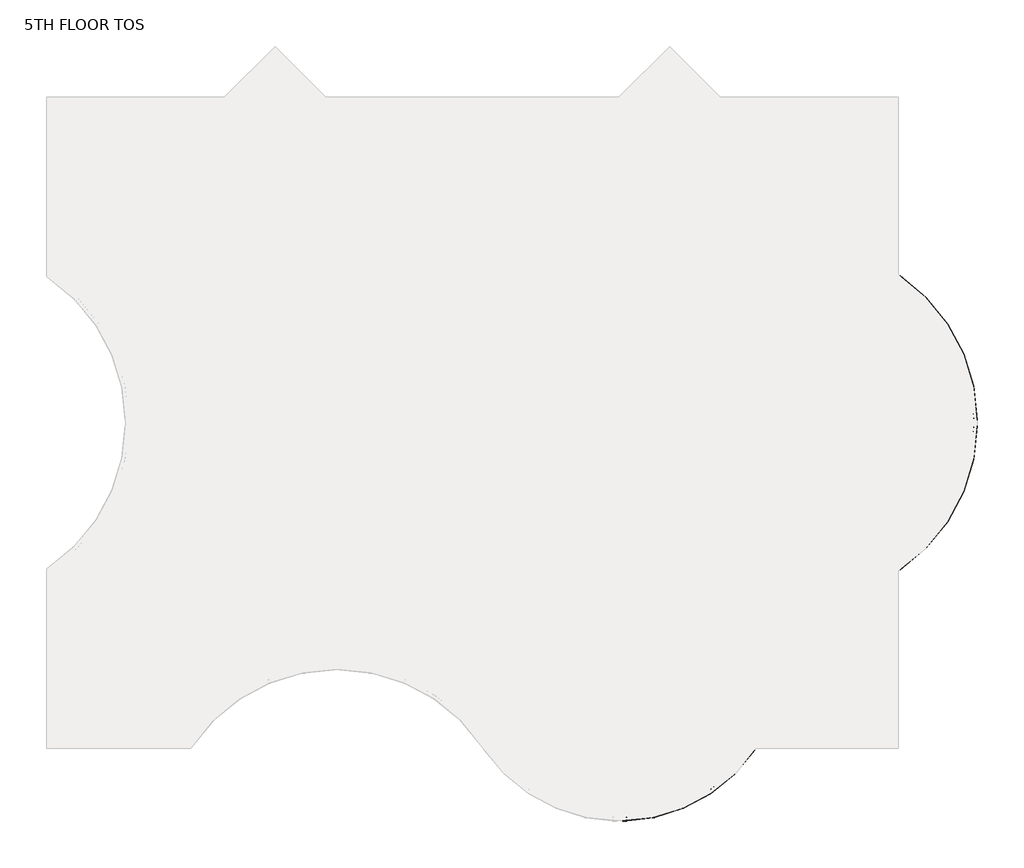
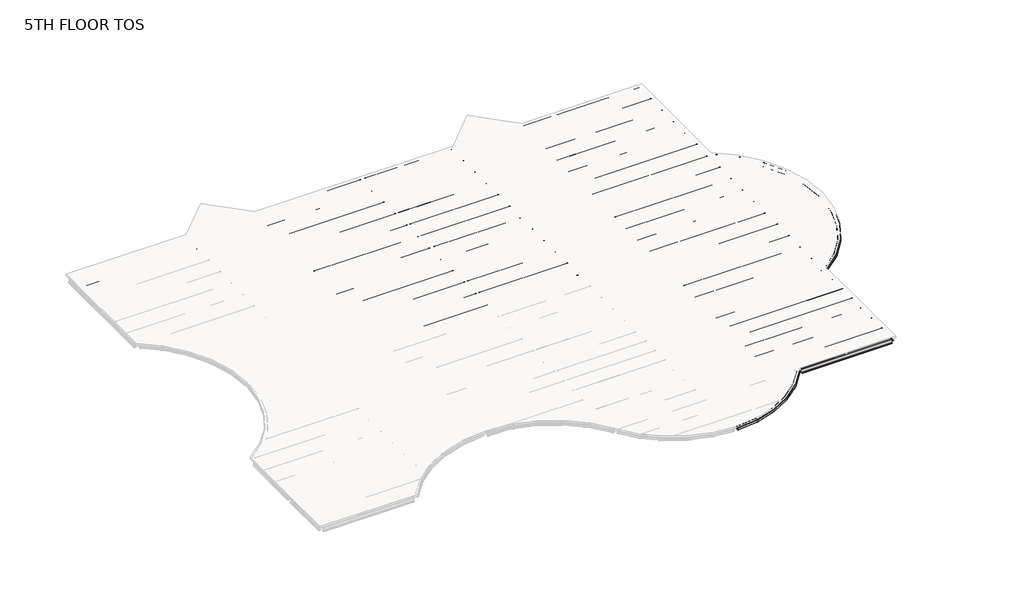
# One storey, part 2 of 2: 110 beams.
"""IFC4 building model written with IfcOpenShell, lengths in millimetres."""

from ifc_helpers import new_model, si_unit, origin, place, context, project, spatial, transform, mapped, element, save
from components import m_hss_square_hss203_2x203_2x9_5_28e91a4e, m_hss_square_hss203_2x203_2x9_5_f31329aa, m_hss_square_hss203_2x203_2x9_5_63507dff, ub_universal_beams_ub254x102x28_7812688d, ub_universal_beams_ub254x102x28_4a38c177, ub_universal_beams_ub305x165x40_c4d0385b, ub_universal_beams_ub305x165x40_19965e16, ub_universal_beams_ub305x165x40_d3abc31d, ub_universal_beams_ub305x165x40_0c73730f, ub_universal_beams_ub305x165x40_2a963f0c, ub_universal_beams_ub305x165x40_9ce7f2ee, ub_universal_beams_ub305x165x40_d184adfd, ub_universal_beams_ub305x165x40_bc7dc938, ub_universal_beams_ub305x165x40_b4233d25, ub_universal_beams_ub356x171x51_c708c058, ub_universal_beams_ub356x171x51_ef72dcdd, ub_universal_beams_ub356x171x51_10b3c54f, ub_universal_beams_ub356x171x51_4c9fd821, ub_universal_beams_ub356x171x51_d1a87c3c, ub_universal_beams_ub356x171x51_fa75724b, ub_universal_beams_ub356x171x51_68db896e, ub_universal_beams_ub356x171x51_c634c4a6, ub_universal_beams_ub356x171x51_995f1560, ub_universal_beams_ub356x171x51_dfc36663, ub_universal_beams_ub356x171x51_11d6b780, ub_universal_beams_ub356x171x51_76b2d20b, ub_universal_beams_ub356x171x51_145ecd4b, ub_universal_beams_ub356x171x51_c7dff8d2, ub_universal_beams_ub356x171x51_8a345439, ub_universal_beams_ub356x171x51_6da510e9, ub_universal_beams_ub356x171x51_e97f8d2e, ub_universal_beams_ub356x171x51_a38b99de, ub_universal_beams_ub356x171x51_d8f4cdde, ub_universal_beams_ub356x171x51_475301e6, ub_universal_beams_ub356x171x51_c03c70fb, ub_universal_beams_ub356x171x51_741bae58

model = new_model("IFC4")

# Units and contexts
model_context = context("Model", 3, world=origin())
ifc_project = project(units=[si_unit("LENGTHUNIT", "METRE", prefix="MILLI")], contexts=[model_context])

# Site, building, storey
site = spatial("IfcSite", under=ifc_project)
building = spatial("IfcBuilding", under=site)
storey = spatial("IfcBuildingStorey", under=building, Name="5TH FLOOR TOS", Elevation=22707.6)

# Beams
placement = place(None, origin())
m_hss_square_hss203_2x203_2x9_5_shape = m_hss_square_hss203_2x203_2x9_5_28e91a4e(model_context)
element("IfcBeam", 1, ObjectType="M_HSS Square : HSS203.2X203.2X9.5", at=placement, inside=storey, context=model_context, shape_type="MappedRepresentation", body=[
    mapped(m_hss_square_hss203_2x203_2x9_5_shape, transform((44027.575, 24539.575, 22606.1), x_axis=(0.8332810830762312, -0.5528495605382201, 0.0), y_axis=(0.5528495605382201, 0.8332810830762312, 0.0), z_axis=(0.0, 0.0, 1.0))),
])
m_hss_square_hss203_2x203_2x9_5_2_shape = m_hss_square_hss203_2x203_2x9_5_f31329aa(model_context)
element("IfcBeam", 2, ObjectType="M_HSS Square : HSS203.2X203.2X9.5", at=placement, inside=storey, context=model_context, shape_type="MappedRepresentation", body=[
    mapped(m_hss_square_hss203_2x203_2x9_5_2_shape, transform((44027.575, 9299.575, 22606.1), x_axis=(0.8332810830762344, 0.5528495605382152, 0.0), y_axis=(-0.5528495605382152, 0.8332810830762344, 0.0), z_axis=(0.0, 0.0, 1.0))),
])
m_hss_square_hss203_2x203_2x9_5_3_shape = m_hss_square_hss203_2x203_2x9_5_63507dff(model_context)
element("IfcBeam", 3, ObjectType="M_HSS Square : HSS203.2X203.2X9.5", at=placement, inside=storey, context=model_context, shape_type="MappedRepresentation", body=[
    mapped(m_hss_square_hss203_2x203_2x9_5_3_shape, transform((36716.575, 155.575, 22606.1), x_axis=(-0.5530174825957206, -0.8331696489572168, 0.0), y_axis=(0.8331696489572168, -0.5530174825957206, 0.0), z_axis=(0.0, 0.0, 1.0))),
])
ub_universal_beams_ub254x102x28_shape = ub_universal_beams_ub254x102x28_7812688d(model_context)
element("IfcBeam", 4, ObjectType="UB-Universal Beams : UB254x102x28", at=placement, inside=storey, context=model_context, shape_type="MappedRepresentation", body=[
    mapped(ub_universal_beams_ub254x102x28_shape, transform((10592.575, 34976.575, 22577.4), x_axis=(0.7071067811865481, 0.7071067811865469, 0.0), y_axis=(-0.7071067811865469, 0.7071067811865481, 0.0), z_axis=(0.0, 0.0, 1.0))),
])
element("IfcBeam", 5, ObjectType="UB-Universal Beams : UB254x102x28", at=placement, inside=storey, context=model_context, shape_type="MappedRepresentation", body=[
    mapped(ub_universal_beams_ub254x102x28_shape, transform((31004.575, 34976.575, 22577.4), x_axis=(0.7071067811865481, 0.7071067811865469, 0.0), y_axis=(-0.7071067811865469, 0.7071067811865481, 0.0), z_axis=(0.0, 0.0, 1.0))),
])
ub_universal_beams_ub254x102x28_2_shape = ub_universal_beams_ub254x102x28_4a38c177(model_context)
element("IfcBeam", 6, ObjectType="UB-Universal Beams : UB254x102x28", at=placement, inside=storey, context=model_context, shape_type="MappedRepresentation", body=[
    mapped(ub_universal_beams_ub254x102x28_2_shape, transform((13178.575, 34976.575, 22577.4), x_axis=(0.707106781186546, -0.707106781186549, 0.0), y_axis=(0.707106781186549, 0.707106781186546, 0.0), z_axis=(0.0, 0.0, 1.0))),
])
element("IfcBeam", 7, ObjectType="UB-Universal Beams : UB254x102x28", at=placement, inside=storey, context=model_context, shape_type="MappedRepresentation", body=[
    mapped(ub_universal_beams_ub254x102x28_2_shape, transform((33590.575, 34976.575, 22577.4), x_axis=(0.7071067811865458, -0.7071067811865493, 0.0), y_axis=(0.7071067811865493, 0.7071067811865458, 0.0), z_axis=(0.0, 0.0, 1.0))),
])
ub_universal_beams_ub305x165x40_shape = ub_universal_beams_ub305x165x40_c4d0385b(model_context)
element("IfcBeam", 8, ObjectType="UB-Universal Beams : UB305x165x40", at=placement, inside=storey, context=model_context, shape_type="MappedRepresentation", body=[
    mapped(ub_universal_beams_ub305x165x40_shape, transform((4727.575, 32159.575, 22555.9), x_axis=(1.0, 0.0, 0.0), y_axis=(0.0, 1.0, 0.0), z_axis=(0.0, 0.0, 1.0))),
])
element("IfcBeam", 9, ObjectType="UB-Universal Beams : UB305x165x40", at=placement, inside=storey, context=model_context, shape_type="MappedRepresentation", body=[
    mapped(ub_universal_beams_ub305x165x40_shape, transform((39455.575, 32159.575, 22555.9), x_axis=(1.0, 0.0, 0.0), y_axis=(0.0, 1.0, 0.0), z_axis=(0.0, 0.0, 1.0))),
])
element("IfcBeam", 10, ObjectType="UB-Universal Beams : UB305x165x40", at=placement, inside=storey, context=model_context, shape_type="MappedRepresentation", body=[
    mapped(ub_universal_beams_ub305x165x40_shape, transform((39455.575, 30635.575, 22555.9), x_axis=(1.0, 0.0, 0.0), y_axis=(0.0, 1.0, 0.0), z_axis=(0.0, 0.0, 1.0))),
])
element("IfcBeam", 11, ObjectType="UB-Universal Beams : UB305x165x40", at=placement, inside=storey, context=model_context, shape_type="MappedRepresentation", body=[
    mapped(ub_universal_beams_ub305x165x40_shape, transform((39455.575, 29111.575, 22555.9), x_axis=(1.0, 0.0, 0.0), y_axis=(0.0, 1.0, 0.0), z_axis=(0.0, 0.0, 1.0))),
])
element("IfcBeam", 12, ObjectType="UB-Universal Beams : UB305x165x40", at=placement, inside=storey, context=model_context, shape_type="MappedRepresentation", body=[
    mapped(ub_universal_beams_ub305x165x40_shape, transform((39455.575, 27587.575, 22555.9), x_axis=(1.0, 0.0, 0.0), y_axis=(0.0, 1.0, 0.0), z_axis=(0.0, 0.0, 1.0))),
])
element("IfcBeam", 13, ObjectType="UB-Universal Beams : UB305x165x40", at=placement, inside=storey, context=model_context, shape_type="MappedRepresentation", body=[
    mapped(ub_universal_beams_ub305x165x40_shape, transform((39455.575, 26063.575, 22555.9), x_axis=(1.0, 0.0, 0.0), y_axis=(0.0, 1.0, 0.0), z_axis=(0.0, 0.0, 1.0))),
])
element("IfcBeam", 14, ObjectType="UB-Universal Beams : UB305x165x40", at=placement, inside=storey, context=model_context, shape_type="MappedRepresentation", body=[
    mapped(ub_universal_beams_ub305x165x40_shape, transform((39455.575, 23015.575, 22555.9), x_axis=(1.0, 0.0, 0.0), y_axis=(0.0, 1.0, 0.0), z_axis=(0.0, 0.0, 1.0))),
])
element("IfcBeam", 15, ObjectType="UB-Universal Beams : UB305x165x40", at=placement, inside=storey, context=model_context, shape_type="MappedRepresentation", body=[
    mapped(ub_universal_beams_ub305x165x40_shape, transform((39455.575, 21491.575, 22555.9), x_axis=(1.0, 0.0, 0.0), y_axis=(0.0, 1.0, 0.0), z_axis=(0.0, 0.0, 1.0))),
])
element("IfcBeam", 16, ObjectType="UB-Universal Beams : UB305x165x40", at=placement, inside=storey, context=model_context, shape_type="MappedRepresentation", body=[
    mapped(ub_universal_beams_ub305x165x40_shape, transform((39455.575, 19967.575, 22555.9), x_axis=(1.0, 0.0, 0.0), y_axis=(0.0, 1.0, 0.0), z_axis=(0.0, 0.0, 1.0))),
])
element("IfcBeam", 17, ObjectType="UB-Universal Beams : UB305x165x40", at=placement, inside=storey, context=model_context, shape_type="MappedRepresentation", body=[
    mapped(ub_universal_beams_ub305x165x40_shape, transform((39455.575, 18443.575, 22555.9), x_axis=(1.0, 0.0, 0.0), y_axis=(0.0, 1.0, 0.0), z_axis=(0.0, 0.0, 1.0))),
])
element("IfcBeam", 18, ObjectType="UB-Universal Beams : UB305x165x40", at=placement, inside=storey, context=model_context, shape_type="MappedRepresentation", body=[
    mapped(ub_universal_beams_ub305x165x40_shape, transform((39455.575, 15395.575, 22555.9), x_axis=(1.0, 0.0, 0.0), y_axis=(0.0, 1.0, 0.0), z_axis=(0.0, 0.0, 1.0))),
])
element("IfcBeam", 19, ObjectType="UB-Universal Beams : UB305x165x40", at=placement, inside=storey, context=model_context, shape_type="MappedRepresentation", body=[
    mapped(ub_universal_beams_ub305x165x40_shape, transform((39455.575, 13871.575, 22555.9), x_axis=(1.0, 0.0, 0.0), y_axis=(0.0, 1.0, 0.0), z_axis=(0.0, 0.0, 1.0))),
])
element("IfcBeam", 20, ObjectType="UB-Universal Beams : UB305x165x40", at=placement, inside=storey, context=model_context, shape_type="MappedRepresentation", body=[
    mapped(ub_universal_beams_ub305x165x40_shape, transform((39455.575, 12347.575, 22555.9), x_axis=(1.0, 0.0, 0.0), y_axis=(0.0, 1.0, 0.0), z_axis=(0.0, 0.0, 1.0))),
])
element("IfcBeam", 21, ObjectType="UB-Universal Beams : UB305x165x40", at=placement, inside=storey, context=model_context, shape_type="MappedRepresentation", body=[
    mapped(ub_universal_beams_ub305x165x40_shape, transform((39455.575, 10823.575, 22555.9), x_axis=(1.0, 0.0, 0.0), y_axis=(0.0, 1.0, 0.0), z_axis=(0.0, 0.0, 1.0))),
])
element("IfcBeam", 22, ObjectType="UB-Universal Beams : UB305x165x40", at=placement, inside=storey, context=model_context, shape_type="MappedRepresentation", body=[
    mapped(ub_universal_beams_ub305x165x40_shape, transform((39455.575, 5508.325, 22555.9), x_axis=(-1.0, 0.0, 0.0), y_axis=(0.0, -1.0, 0.0), z_axis=(0.0, 0.0, 1.0))),
])
element("IfcBeam", 23, ObjectType="UB-Universal Beams : UB305x165x40", at=placement, inside=storey, context=model_context, shape_type="MappedRepresentation", body=[
    mapped(ub_universal_beams_ub305x165x40_shape, transform((39455.575, 6772.075, 22555.9), x_axis=(-1.0, 0.0, 0.0), y_axis=(0.0, -1.0, 0.0), z_axis=(0.0, 0.0, 1.0))),
])
element("IfcBeam", 24, ObjectType="UB-Universal Beams : UB305x165x40", at=placement, inside=storey, context=model_context, shape_type="MappedRepresentation", body=[
    mapped(ub_universal_beams_ub305x165x40_shape, transform((39455.575, 8035.825, 22555.9), x_axis=(-1.0, 0.0, 0.0), y_axis=(0.0, -1.0, 0.0), z_axis=(0.0, 0.0, 1.0))),
])
element("IfcBeam", 25, ObjectType="UB-Universal Beams : UB305x165x40", at=placement, inside=storey, context=model_context, shape_type="MappedRepresentation", body=[
    mapped(ub_universal_beams_ub305x165x40_shape, transform((39455.575, 1518.575, 22555.9), x_axis=(-1.0, 0.0, 0.0), y_axis=(0.0, -1.0, 0.0), z_axis=(0.0, 0.0, 1.0))),
])
element("IfcBeam", 26, ObjectType="UB-Universal Beams : UB305x165x40", at=placement, inside=storey, context=model_context, shape_type="MappedRepresentation", body=[
    mapped(ub_universal_beams_ub305x165x40_shape, transform((39455.575, 2881.575, 22555.9), x_axis=(-1.0, 0.0, 0.0), y_axis=(0.0, -1.0, 0.0), z_axis=(0.0, 0.0, 1.0))),
])
ub_universal_beams_ub305x165x40_2_shape = ub_universal_beams_ub305x165x40_19965e16(model_context)
element("IfcBeam", 27, ObjectType="UB-Universal Beams : UB305x165x40", at=placement, inside=storey, context=model_context, shape_type="MappedRepresentation", body=[
    mapped(ub_universal_beams_ub305x165x40_2_shape, transform((11885.575, 34803.325, 22555.9), x_axis=(1.0, 0.0, 0.0), y_axis=(0.0, 1.0, 0.0), z_axis=(0.0, 0.0, 1.0))),
])
element("IfcBeam", 28, ObjectType="UB-Universal Beams : UB305x165x40", at=placement, inside=storey, context=model_context, shape_type="MappedRepresentation", body=[
    mapped(ub_universal_beams_ub305x165x40_2_shape, transform((32297.575, 34803.325, 22555.9), x_axis=(1.0, 0.0, 0.0), y_axis=(0.0, 1.0, 0.0), z_axis=(0.0, 0.0, 1.0))),
])
ub_universal_beams_ub305x165x40_3_shape = ub_universal_beams_ub305x165x40_d3abc31d(model_context)
element("IfcBeam", 29, ObjectType="UB-Universal Beams : UB305x165x40", at=placement, inside=storey, context=model_context, shape_type="MappedRepresentation", body=[
    mapped(ub_universal_beams_ub305x165x40_3_shape, transform((11885.575, 33337.075, 22555.9), x_axis=(1.0, 0.0, 0.0), y_axis=(0.0, 1.0, 0.0), z_axis=(0.0, 0.0, 1.0))),
])
element("IfcBeam", 30, ObjectType="UB-Universal Beams : UB305x165x40", at=placement, inside=storey, context=model_context, shape_type="MappedRepresentation", body=[
    mapped(ub_universal_beams_ub305x165x40_3_shape, transform((11885.575, 31870.825, 22555.9), x_axis=(1.0, 0.0, 0.0), y_axis=(0.0, 1.0, 0.0), z_axis=(0.0, 0.0, 1.0))),
])
element("IfcBeam", 31, ObjectType="UB-Universal Beams : UB305x165x40", at=placement, inside=storey, context=model_context, shape_type="MappedRepresentation", body=[
    mapped(ub_universal_beams_ub305x165x40_3_shape, transform((11885.575, 30404.575, 22555.9), x_axis=(1.0, 0.0, 0.0), y_axis=(0.0, 1.0, 0.0), z_axis=(0.0, 0.0, 1.0))),
])
element("IfcBeam", 32, ObjectType="UB-Universal Beams : UB305x165x40", at=placement, inside=storey, context=model_context, shape_type="MappedRepresentation", body=[
    mapped(ub_universal_beams_ub305x165x40_3_shape, transform((32297.575, 33337.075, 22555.9), x_axis=(1.0, 0.0, 0.0), y_axis=(0.0, 1.0, 0.0), z_axis=(0.0, 0.0, 1.0))),
])
element("IfcBeam", 33, ObjectType="UB-Universal Beams : UB305x165x40", at=placement, inside=storey, context=model_context, shape_type="MappedRepresentation", body=[
    mapped(ub_universal_beams_ub305x165x40_3_shape, transform((32297.575, 31870.825, 22555.9), x_axis=(1.0, 0.0, 0.0), y_axis=(0.0, 1.0, 0.0), z_axis=(0.0, 0.0, 1.0))),
])
element("IfcBeam", 34, ObjectType="UB-Universal Beams : UB305x165x40", at=placement, inside=storey, context=model_context, shape_type="MappedRepresentation", body=[
    mapped(ub_universal_beams_ub305x165x40_3_shape, transform((32297.575, 30404.575, 22555.9), x_axis=(1.0, 0.0, 0.0), y_axis=(0.0, 1.0, 0.0), z_axis=(0.0, 0.0, 1.0))),
])
element("IfcBeam", 35, ObjectType="UB-Universal Beams : UB305x165x40", at=placement, inside=storey, context=model_context, shape_type="MappedRepresentation", body=[
    mapped(ub_universal_beams_ub305x165x40_3_shape, transform((32297.575, 28938.325, 22555.9), x_axis=(1.0, 0.0, 0.0), y_axis=(0.0, 1.0, 0.0), z_axis=(0.0, 0.0, 1.0))),
])
element("IfcBeam", 36, ObjectType="UB-Universal Beams : UB305x165x40", at=placement, inside=storey, context=model_context, shape_type="MappedRepresentation", body=[
    mapped(ub_universal_beams_ub305x165x40_3_shape, transform((32297.575, 27472.075, 22555.9), x_axis=(1.0, 0.0, 0.0), y_axis=(0.0, 1.0, 0.0), z_axis=(0.0, 0.0, 1.0))),
])
element("IfcBeam", 37, ObjectType="UB-Universal Beams : UB305x165x40", at=placement, inside=storey, context=model_context, shape_type="MappedRepresentation", body=[
    mapped(ub_universal_beams_ub305x165x40_3_shape, transform((32297.575, 26005.825, 22555.9), x_axis=(1.0, 0.0, 0.0), y_axis=(0.0, 1.0, 0.0), z_axis=(0.0, 0.0, 1.0))),
])
element("IfcBeam", 38, ObjectType="UB-Universal Beams : UB305x165x40", at=placement, inside=storey, context=model_context, shape_type="MappedRepresentation", body=[
    mapped(ub_universal_beams_ub305x165x40_3_shape, transform((32297.575, 1518.575, 22555.9), x_axis=(-1.0, 0.0, 0.0), y_axis=(0.0, -1.0, 0.0), z_axis=(0.0, 0.0, 1.0))),
])
element("IfcBeam", 39, ObjectType="UB-Universal Beams : UB305x165x40", at=placement, inside=storey, context=model_context, shape_type="MappedRepresentation", body=[
    mapped(ub_universal_beams_ub305x165x40_3_shape, transform((32297.575, 2881.575, 22555.9), x_axis=(-1.0, 0.0, 0.0), y_axis=(0.0, -1.0, 0.0), z_axis=(0.0, 0.0, 1.0))),
])
element("IfcBeam", 40, ObjectType="UB-Universal Beams : UB305x165x40", at=placement, inside=storey, context=model_context, shape_type="MappedRepresentation", body=[
    mapped(ub_universal_beams_ub305x165x40_3_shape, transform((32297.575, 5508.325, 22555.9), x_axis=(-1.0, 0.0, 0.0), y_axis=(0.0, -1.0, 0.0), z_axis=(0.0, 0.0, 1.0))),
])
element("IfcBeam", 41, ObjectType="UB-Universal Beams : UB305x165x40", at=placement, inside=storey, context=model_context, shape_type="MappedRepresentation", body=[
    mapped(ub_universal_beams_ub305x165x40_3_shape, transform((32297.575, 6772.075, 22555.9), x_axis=(-1.0, 0.0, 0.0), y_axis=(0.0, -1.0, 0.0), z_axis=(0.0, 0.0, 1.0))),
])
element("IfcBeam", 42, ObjectType="UB-Universal Beams : UB305x165x40", at=placement, inside=storey, context=model_context, shape_type="MappedRepresentation", body=[
    mapped(ub_universal_beams_ub305x165x40_3_shape, transform((32297.575, 8035.825, 22555.9), x_axis=(-1.0, 0.0, 0.0), y_axis=(0.0, -1.0, 0.0), z_axis=(0.0, 0.0, 1.0))),
])
element("IfcBeam", 43, ObjectType="UB-Universal Beams : UB305x165x40", at=placement, inside=storey, context=model_context, shape_type="MappedRepresentation", body=[
    mapped(ub_universal_beams_ub305x165x40_3_shape, transform((32297.575, 15395.575, 22555.9), x_axis=(1.0, 0.0, 0.0), y_axis=(0.0, 1.0, 0.0), z_axis=(0.0, 0.0, 1.0))),
])
element("IfcBeam", 44, ObjectType="UB-Universal Beams : UB305x165x40", at=placement, inside=storey, context=model_context, shape_type="MappedRepresentation", body=[
    mapped(ub_universal_beams_ub305x165x40_3_shape, transform((32297.575, 13871.575, 22555.9), x_axis=(1.0, 0.0, 0.0), y_axis=(0.0, 1.0, 0.0), z_axis=(0.0, 0.0, 1.0))),
])
element("IfcBeam", 45, ObjectType="UB-Universal Beams : UB305x165x40", at=placement, inside=storey, context=model_context, shape_type="MappedRepresentation", body=[
    mapped(ub_universal_beams_ub305x165x40_3_shape, transform((32297.575, 12347.575, 22555.9), x_axis=(1.0, 0.0, 0.0), y_axis=(0.0, 1.0, 0.0), z_axis=(0.0, 0.0, 1.0))),
])
element("IfcBeam", 46, ObjectType="UB-Universal Beams : UB305x165x40", at=placement, inside=storey, context=model_context, shape_type="MappedRepresentation", body=[
    mapped(ub_universal_beams_ub305x165x40_3_shape, transform((32297.575, 10823.575, 22555.9), x_axis=(1.0, 0.0, 0.0), y_axis=(0.0, 1.0, 0.0), z_axis=(0.0, 0.0, 1.0))),
])
element("IfcBeam", 47, ObjectType="UB-Universal Beams : UB305x165x40", at=placement, inside=storey, context=model_context, shape_type="MappedRepresentation", body=[
    mapped(ub_universal_beams_ub305x165x40_3_shape, transform((32297.575, 23015.575, 22555.9), x_axis=(1.0, 0.0, 0.0), y_axis=(0.0, 1.0, 0.0), z_axis=(0.0, 0.0, 1.0))),
])
element("IfcBeam", 48, ObjectType="UB-Universal Beams : UB305x165x40", at=placement, inside=storey, context=model_context, shape_type="MappedRepresentation", body=[
    mapped(ub_universal_beams_ub305x165x40_3_shape, transform((32297.575, 21491.575, 22555.9), x_axis=(1.0, 0.0, 0.0), y_axis=(0.0, 1.0, 0.0), z_axis=(0.0, 0.0, 1.0))),
])
element("IfcBeam", 49, ObjectType="UB-Universal Beams : UB305x165x40", at=placement, inside=storey, context=model_context, shape_type="MappedRepresentation", body=[
    mapped(ub_universal_beams_ub305x165x40_3_shape, transform((32297.575, 19967.575, 22555.9), x_axis=(1.0, 0.0, 0.0), y_axis=(0.0, 1.0, 0.0), z_axis=(0.0, 0.0, 1.0))),
])
element("IfcBeam", 50, ObjectType="UB-Universal Beams : UB305x165x40", at=placement, inside=storey, context=model_context, shape_type="MappedRepresentation", body=[
    mapped(ub_universal_beams_ub305x165x40_3_shape, transform((32297.575, 18443.575, 22555.9), x_axis=(1.0, 0.0, 0.0), y_axis=(0.0, 1.0, 0.0), z_axis=(0.0, 0.0, 1.0))),
])
ub_universal_beams_ub305x165x40_4_shape = ub_universal_beams_ub305x165x40_0c73730f(model_context)
element("IfcBeam", 51, ObjectType="UB-Universal Beams : UB305x165x40", at=placement, inside=storey, context=model_context, shape_type="MappedRepresentation", body=[
    mapped(ub_universal_beams_ub305x165x40_4_shape, transform((18591.075, 32159.575, 22555.9), x_axis=(1.0, 0.0, 0.0), y_axis=(0.0, 1.0, 0.0), z_axis=(0.0, 0.0, 1.0))),
])
element("IfcBeam", 52, ObjectType="UB-Universal Beams : UB305x165x40", at=placement, inside=storey, context=model_context, shape_type="MappedRepresentation", body=[
    mapped(ub_universal_beams_ub305x165x40_4_shape, transform((18591.075, 30635.575, 22555.9), x_axis=(1.0, 0.0, 0.0), y_axis=(0.0, 1.0, 0.0), z_axis=(0.0, 0.0, 1.0))),
])
element("IfcBeam", 53, ObjectType="UB-Universal Beams : UB305x165x40", at=placement, inside=storey, context=model_context, shape_type="MappedRepresentation", body=[
    mapped(ub_universal_beams_ub305x165x40_4_shape, transform((18591.075, 29111.575, 22555.9), x_axis=(1.0, 0.0, 0.0), y_axis=(0.0, 1.0, 0.0), z_axis=(0.0, 0.0, 1.0))),
])
element("IfcBeam", 54, ObjectType="UB-Universal Beams : UB305x165x40", at=placement, inside=storey, context=model_context, shape_type="MappedRepresentation", body=[
    mapped(ub_universal_beams_ub305x165x40_4_shape, transform((18591.075, 27587.575, 22555.9), x_axis=(1.0, 0.0, 0.0), y_axis=(0.0, 1.0, 0.0), z_axis=(0.0, 0.0, 1.0))),
])
element("IfcBeam", 55, ObjectType="UB-Universal Beams : UB305x165x40", at=placement, inside=storey, context=model_context, shape_type="MappedRepresentation", body=[
    mapped(ub_universal_beams_ub305x165x40_4_shape, transform((18591.075, 26063.575, 22555.9), x_axis=(1.0, 0.0, 0.0), y_axis=(0.0, 1.0, 0.0), z_axis=(0.0, 0.0, 1.0))),
])
element("IfcBeam", 56, ObjectType="UB-Universal Beams : UB305x165x40", at=placement, inside=storey, context=model_context, shape_type="MappedRepresentation", body=[
    mapped(ub_universal_beams_ub305x165x40_4_shape, transform((18591.075, 23015.575, 22555.9), x_axis=(1.0, 0.0, 0.0), y_axis=(0.0, 1.0, 0.0), z_axis=(0.0, 0.0, 1.0))),
])
element("IfcBeam", 57, ObjectType="UB-Universal Beams : UB305x165x40", at=placement, inside=storey, context=model_context, shape_type="MappedRepresentation", body=[
    mapped(ub_universal_beams_ub305x165x40_4_shape, transform((18591.075, 21491.575, 22555.9), x_axis=(1.0, 0.0, 0.0), y_axis=(0.0, 1.0, 0.0), z_axis=(0.0, 0.0, 1.0))),
])
element("IfcBeam", 58, ObjectType="UB-Universal Beams : UB305x165x40", at=placement, inside=storey, context=model_context, shape_type="MappedRepresentation", body=[
    mapped(ub_universal_beams_ub305x165x40_4_shape, transform((18591.075, 19967.575, 22555.9), x_axis=(1.0, 0.0, 0.0), y_axis=(0.0, 1.0, 0.0), z_axis=(0.0, 0.0, 1.0))),
])
element("IfcBeam", 59, ObjectType="UB-Universal Beams : UB305x165x40", at=placement, inside=storey, context=model_context, shape_type="MappedRepresentation", body=[
    mapped(ub_universal_beams_ub305x165x40_4_shape, transform((18591.075, 18443.575, 22555.9), x_axis=(1.0, 0.0, 0.0), y_axis=(0.0, 1.0, 0.0), z_axis=(0.0, 0.0, 1.0))),
])
ub_universal_beams_ub305x165x40_5_shape = ub_universal_beams_ub305x165x40_2a963f0c(model_context)
element("IfcBeam", 60, ObjectType="UB-Universal Beams : UB305x165x40", at=placement, inside=storey, context=model_context, shape_type="MappedRepresentation", body=[
    mapped(ub_universal_beams_ub305x165x40_5_shape, transform((26211.075, 32159.575, 22555.9), x_axis=(1.0, 0.0, 0.0), y_axis=(0.0, 1.0, 0.0), z_axis=(0.0, 0.0, 1.0))),
])
element("IfcBeam", 61, ObjectType="UB-Universal Beams : UB305x165x40", at=placement, inside=storey, context=model_context, shape_type="MappedRepresentation", body=[
    mapped(ub_universal_beams_ub305x165x40_5_shape, transform((26211.075, 30635.575, 22555.9), x_axis=(1.0, 0.0, 0.0), y_axis=(0.0, 1.0, 0.0), z_axis=(0.0, 0.0, 1.0))),
])
element("IfcBeam", 62, ObjectType="UB-Universal Beams : UB305x165x40", at=placement, inside=storey, context=model_context, shape_type="MappedRepresentation", body=[
    mapped(ub_universal_beams_ub305x165x40_5_shape, transform((26211.075, 29111.575, 22555.9), x_axis=(1.0, 0.0, 0.0), y_axis=(0.0, 1.0, 0.0), z_axis=(0.0, 0.0, 1.0))),
])
element("IfcBeam", 63, ObjectType="UB-Universal Beams : UB305x165x40", at=placement, inside=storey, context=model_context, shape_type="MappedRepresentation", body=[
    mapped(ub_universal_beams_ub305x165x40_5_shape, transform((26211.075, 27587.575, 22555.9), x_axis=(1.0, 0.0, 0.0), y_axis=(0.0, 1.0, 0.0), z_axis=(0.0, 0.0, 1.0))),
])
element("IfcBeam", 64, ObjectType="UB-Universal Beams : UB305x165x40", at=placement, inside=storey, context=model_context, shape_type="MappedRepresentation", body=[
    mapped(ub_universal_beams_ub305x165x40_5_shape, transform((26211.075, 26063.575, 22555.9), x_axis=(1.0, 0.0, 0.0), y_axis=(0.0, 1.0, 0.0), z_axis=(0.0, 0.0, 1.0))),
])
element("IfcBeam", 65, ObjectType="UB-Universal Beams : UB305x165x40", at=placement, inside=storey, context=model_context, shape_type="MappedRepresentation", body=[
    mapped(ub_universal_beams_ub305x165x40_5_shape, transform((26211.075, 23015.575, 22555.9), x_axis=(1.0, 0.0, 0.0), y_axis=(0.0, 1.0, 0.0), z_axis=(0.0, 0.0, 1.0))),
])
element("IfcBeam", 66, ObjectType="UB-Universal Beams : UB305x165x40", at=placement, inside=storey, context=model_context, shape_type="MappedRepresentation", body=[
    mapped(ub_universal_beams_ub305x165x40_5_shape, transform((26211.075, 21491.575, 22555.9), x_axis=(1.0, 0.0, 0.0), y_axis=(0.0, 1.0, 0.0), z_axis=(0.0, 0.0, 1.0))),
])
element("IfcBeam", 67, ObjectType="UB-Universal Beams : UB305x165x40", at=placement, inside=storey, context=model_context, shape_type="MappedRepresentation", body=[
    mapped(ub_universal_beams_ub305x165x40_5_shape, transform((26211.075, 19967.575, 22555.9), x_axis=(1.0, 0.0, 0.0), y_axis=(0.0, 1.0, 0.0), z_axis=(0.0, 0.0, 1.0))),
])
element("IfcBeam", 68, ObjectType="UB-Universal Beams : UB305x165x40", at=placement, inside=storey, context=model_context, shape_type="MappedRepresentation", body=[
    mapped(ub_universal_beams_ub305x165x40_5_shape, transform((26211.075, 18443.575, 22555.9), x_axis=(1.0, 0.0, 0.0), y_axis=(0.0, 1.0, 0.0), z_axis=(0.0, 0.0, 1.0))),
])
ub_universal_beams_ub305x165x40_6_shape = ub_universal_beams_ub305x165x40_9ce7f2ee(model_context)
element("IfcBeam", 69, ObjectType="UB-Universal Beams : UB305x165x40", at=placement, inside=storey, context=model_context, shape_type="MappedRepresentation", body=[
    mapped(ub_universal_beams_ub305x165x40_6_shape, transform((44907.9405309, 23015.575, 22555.9), x_axis=(1.0, 0.0, 0.0), y_axis=(0.0, 1.0, 0.0), z_axis=(0.0, 0.0, 1.0))),
])
element("IfcBeam", 70, ObjectType="UB-Universal Beams : UB305x165x40", at=placement, inside=storey, context=model_context, shape_type="MappedRepresentation", body=[
    mapped(ub_universal_beams_ub305x165x40_6_shape, transform((44907.9405309, 10823.575, 22555.9), x_axis=(1.0, 0.0, 0.0), y_axis=(0.0, 1.0, 0.0), z_axis=(0.0, 0.0, 1.0))),
])
ub_universal_beams_ub305x165x40_7_shape = ub_universal_beams_ub305x165x40_d184adfd(model_context)
element("IfcBeam", 71, ObjectType="UB-Universal Beams : UB305x165x40", at=placement, inside=storey, context=model_context, shape_type="MappedRepresentation", body=[
    mapped(ub_universal_beams_ub305x165x40_7_shape, transform((45459.5874928, 21491.575, 22555.9), x_axis=(1.0, 0.0, 0.0), y_axis=(0.0, 1.0, 0.0), z_axis=(0.0, 0.0, 1.0))),
])
element("IfcBeam", 72, ObjectType="UB-Universal Beams : UB305x165x40", at=placement, inside=storey, context=model_context, shape_type="MappedRepresentation", body=[
    mapped(ub_universal_beams_ub305x165x40_7_shape, transform((45459.5874928, 12347.575, 22555.9), x_axis=(1.0, 0.0, 0.0), y_axis=(0.0, 1.0, 0.0), z_axis=(0.0, 0.0, 1.0))),
])
ub_universal_beams_ub305x165x40_8_shape = ub_universal_beams_ub305x165x40_bc7dc938(model_context)
element("IfcBeam", 73, ObjectType="UB-Universal Beams : UB305x165x40", at=placement, inside=storey, context=model_context, shape_type="MappedRepresentation", body=[
    mapped(ub_universal_beams_ub305x165x40_8_shape, transform((45810.6153272, 19967.575, 22555.9), x_axis=(1.0, 0.0, 0.0), y_axis=(0.0, 1.0, 0.0), z_axis=(0.0, 0.0, 1.0))),
])
element("IfcBeam", 74, ObjectType="UB-Universal Beams : UB305x165x40", at=placement, inside=storey, context=model_context, shape_type="MappedRepresentation", body=[
    mapped(ub_universal_beams_ub305x165x40_8_shape, transform((45810.6153272, 13871.575, 22555.9), x_axis=(1.0, 0.0, 0.0), y_axis=(0.0, 1.0, 0.0), z_axis=(0.0, 0.0, 1.0))),
])
ub_universal_beams_ub305x165x40_9_shape = ub_universal_beams_ub305x165x40_b4233d25(model_context)
element("IfcBeam", 75, ObjectType="UB-Universal Beams : UB305x165x40", at=placement, inside=storey, context=model_context, shape_type="MappedRepresentation", body=[
    mapped(ub_universal_beams_ub305x165x40_9_shape, transform((46008.1318611, 18443.575, 22555.9), x_axis=(1.0, 0.0, 0.0), y_axis=(0.0, 1.0, 0.0), z_axis=(0.0, 0.0, 1.0))),
])
element("IfcBeam", 76, ObjectType="UB-Universal Beams : UB305x165x40", at=placement, inside=storey, context=model_context, shape_type="MappedRepresentation", body=[
    mapped(ub_universal_beams_ub305x165x40_9_shape, transform((46008.1318611, 15395.575, 22555.9), x_axis=(1.0, 0.0, 0.0), y_axis=(0.0, 1.0, 0.0), z_axis=(0.0, 0.0, 1.0))),
])
ub_universal_beams_ub356x171x51_shape = ub_universal_beams_ub356x171x51_c708c058(model_context)
element("IfcBeam", 77, ObjectType="UB-Universal Beams : UB356x171x51", at=placement, inside=storey, context=model_context, shape_type="MappedRepresentation", body=[
    mapped(ub_universal_beams_ub356x171x51_shape, transform((2200.075, 33683.575, 22530.1), x_axis=(1.0, 0.0, 0.0), y_axis=(0.0, 1.0, 0.0), z_axis=(0.0, 0.0, 1.0))),
])
ub_universal_beams_ub356x171x51_2_shape = ub_universal_beams_ub356x171x51_ef72dcdd(model_context)
element("IfcBeam", 78, ObjectType="UB-Universal Beams : UB356x171x51", at=placement, inside=storey, context=model_context, shape_type="MappedRepresentation", body=[
    mapped(ub_universal_beams_ub356x171x51_2_shape, transform((6772.075, 33683.575, 22530.1), x_axis=(1.0, 0.0, 0.0), y_axis=(0.0, 1.0, 0.0), z_axis=(0.0, 0.0, 1.0))),
])
element("IfcBeam", 79, ObjectType="UB-Universal Beams : UB356x171x51", at=placement, inside=storey, context=model_context, shape_type="MappedRepresentation", body=[
    mapped(ub_universal_beams_ub356x171x51_2_shape, transform((34883.575, 6772.075, 22530.1), x_axis=(0.0, -1.0, 0.0), y_axis=(1.0, 0.0, 0.0), z_axis=(0.0, 0.0, 1.0))),
])
ub_universal_beams_ub356x171x51_3_shape = ub_universal_beams_ub356x171x51_10b3c54f(model_context)
element("IfcBeam", 80, ObjectType="UB-Universal Beams : UB356x171x51", at=placement, inside=storey, context=model_context, shape_type="MappedRepresentation", body=[
    mapped(ub_universal_beams_ub356x171x51_3_shape, transform((18591.075, 33683.575, 22530.1), x_axis=(1.0, 0.0, 0.0), y_axis=(0.0, 1.0, 0.0), z_axis=(0.0, 0.0, 1.0))),
])
ub_universal_beams_ub356x171x51_4_shape = ub_universal_beams_ub356x171x51_4c9fd821(model_context)
element("IfcBeam", 81, ObjectType="UB-Universal Beams : UB356x171x51", at=placement, inside=storey, context=model_context, shape_type="MappedRepresentation", body=[
    mapped(ub_universal_beams_ub356x171x51_4_shape, transform((26211.075, 33683.575, 22530.1), x_axis=(1.0, 0.0, 0.0), y_axis=(0.0, 1.0, 0.0), z_axis=(0.0, 0.0, 1.0))),
])
ub_universal_beams_ub356x171x51_5_shape = ub_universal_beams_ub356x171x51_d1a87c3c(model_context)
element("IfcBeam", 82, ObjectType="UB-Universal Beams : UB356x171x51", at=placement, inside=storey, context=model_context, shape_type="MappedRepresentation", body=[
    mapped(ub_universal_beams_ub356x171x51_5_shape, transform((39455.575, 33683.575, 22530.1), x_axis=(1.0, 0.0, 0.0), y_axis=(0.0, 1.0, 0.0), z_axis=(0.0, 0.0, 1.0))),
])
ub_universal_beams_ub356x171x51_6_shape = ub_universal_beams_ub356x171x51_fa75724b(model_context)
element("IfcBeam", 83, ObjectType="UB-Universal Beams : UB356x171x51", at=placement, inside=storey, context=model_context, shape_type="MappedRepresentation", body=[
    mapped(ub_universal_beams_ub356x171x51_6_shape, transform((44027.575, 29111.575, 22530.1), x_axis=(0.0, -1.0, 0.0), y_axis=(1.0, 0.0, 0.0), z_axis=(0.0, 0.0, 1.0))),
])
ub_universal_beams_ub356x171x51_7_shape = ub_universal_beams_ub356x171x51_68db896e(model_context)
element("IfcBeam", 84, ObjectType="UB-Universal Beams : UB356x171x51", at=placement, inside=storey, context=model_context, shape_type="MappedRepresentation", body=[
    mapped(ub_universal_beams_ub356x171x51_7_shape, transform((44027.575, 6772.075, 22530.1), x_axis=(0.0, -1.0, 0.0), y_axis=(1.0, 0.0, 0.0), z_axis=(0.0, 0.0, 1.0))),
])
ub_universal_beams_ub356x171x51_8_shape = ub_universal_beams_ub356x171x51_c634c4a6(model_context)
element("IfcBeam", 85, ObjectType="UB-Universal Beams : UB356x171x51", at=placement, inside=storey, context=model_context, shape_type="MappedRepresentation", body=[
    mapped(ub_universal_beams_ub356x171x51_8_shape, transform((44027.575, 2200.075, 22530.1), x_axis=(0.0, -1.0, 0.0), y_axis=(1.0, 0.0, 0.0), z_axis=(0.0, 0.0, 1.0))),
])
ub_universal_beams_ub356x171x51_9_shape = ub_universal_beams_ub356x171x51_995f1560(model_context)
element("IfcBeam", 86, ObjectType="UB-Universal Beams : UB356x171x51", at=placement, inside=storey, context=model_context, shape_type="MappedRepresentation", body=[
    mapped(ub_universal_beams_ub356x171x51_9_shape, transform((40372.075, 155.575, 22530.1), x_axis=(-1.0, 0.0, 0.0), y_axis=(0.0, -1.0, 0.0), z_axis=(0.0, 0.0, 1.0))),
])
ub_universal_beams_ub356x171x51_10_shape = ub_universal_beams_ub356x171x51_dfc36663(model_context)
element("IfcBeam", 87, ObjectType="UB-Universal Beams : UB356x171x51", at=placement, inside=storey, context=model_context, shape_type="MappedRepresentation", body=[
    mapped(ub_universal_beams_ub356x171x51_10_shape, transform((46072.075, 16919.575, 22530.1), x_axis=(1.0, 0.0, 0.0), y_axis=(0.0, 1.0, 0.0), z_axis=(0.0, 0.0, 1.0))),
])
ub_universal_beams_ub356x171x51_11_shape = ub_universal_beams_ub356x171x51_11d6b780(model_context)
element("IfcBeam", 88, ObjectType="UB-Universal Beams : UB356x171x51", at=placement, inside=storey, context=model_context, shape_type="MappedRepresentation", body=[
    mapped(ub_universal_beams_ub356x171x51_11_shape, transform((32297.575, 24539.575, 22530.1), x_axis=(1.0, 0.0, 0.0), y_axis=(0.0, 1.0, 0.0), z_axis=(0.0, 0.0, 1.0))),
])
element("IfcBeam", 89, ObjectType="UB-Universal Beams : UB356x171x51", at=placement, inside=storey, context=model_context, shape_type="MappedRepresentation", body=[
    mapped(ub_universal_beams_ub356x171x51_11_shape, transform((32297.575, 9299.575, 22530.1), x_axis=(-1.0, 0.0, 0.0), y_axis=(0.0, -1.0, 0.0), z_axis=(0.0, 0.0, 1.0))),
])
element("IfcBeam", 90, ObjectType="UB-Universal Beams : UB356x171x51", at=placement, inside=storey, context=model_context, shape_type="MappedRepresentation", body=[
    mapped(ub_universal_beams_ub356x171x51_11_shape, transform((32297.575, 16919.575, 22530.1), x_axis=(1.0, 0.0, 0.0), y_axis=(0.0, 1.0, 0.0), z_axis=(0.0, 0.0, 1.0))),
])
element("IfcBeam", 91, ObjectType="UB-Universal Beams : UB356x171x51", at=placement, inside=storey, context=model_context, shape_type="MappedRepresentation", body=[
    mapped(ub_universal_beams_ub356x171x51_11_shape, transform((32297.575, 4244.575, 22530.1), x_axis=(-1.0, 0.0, 0.0), y_axis=(0.0, -1.0, 0.0), z_axis=(0.0, 0.0, 1.0))),
])
ub_universal_beams_ub356x171x51_12_shape = ub_universal_beams_ub356x171x51_76b2d20b(model_context)
element("IfcBeam", 92, ObjectType="UB-Universal Beams : UB356x171x51", at=placement, inside=storey, context=model_context, shape_type="MappedRepresentation", body=[
    mapped(ub_universal_beams_ub356x171x51_12_shape, transform((18591.075, 24539.575, 22530.1), x_axis=(1.0, 0.0, 0.0), y_axis=(0.0, 1.0, 0.0), z_axis=(0.0, 0.0, 1.0))),
])
element("IfcBeam", 93, ObjectType="UB-Universal Beams : UB356x171x51", at=placement, inside=storey, context=model_context, shape_type="MappedRepresentation", body=[
    mapped(ub_universal_beams_ub356x171x51_12_shape, transform((18591.075, 16919.575, 22530.1), x_axis=(1.0, 0.0, 0.0), y_axis=(0.0, 1.0, 0.0), z_axis=(0.0, 0.0, 1.0))),
])
ub_universal_beams_ub356x171x51_13_shape = ub_universal_beams_ub356x171x51_145ecd4b(model_context)
element("IfcBeam", 94, ObjectType="UB-Universal Beams : UB356x171x51", at=placement, inside=storey, context=model_context, shape_type="MappedRepresentation", body=[
    mapped(ub_universal_beams_ub356x171x51_13_shape, transform((26211.075, 24539.575, 22530.1), x_axis=(1.0, 0.0, 0.0), y_axis=(0.0, 1.0, 0.0), z_axis=(0.0, 0.0, 1.0))),
])
element("IfcBeam", 95, ObjectType="UB-Universal Beams : UB356x171x51", at=placement, inside=storey, context=model_context, shape_type="MappedRepresentation", body=[
    mapped(ub_universal_beams_ub356x171x51_13_shape, transform((26211.075, 16919.575, 22530.1), x_axis=(1.0, 0.0, 0.0), y_axis=(0.0, 1.0, 0.0), z_axis=(0.0, 0.0, 1.0))),
])
ub_universal_beams_ub356x171x51_14_shape = ub_universal_beams_ub356x171x51_c7dff8d2(model_context)
element("IfcBeam", 96, ObjectType="UB-Universal Beams : UB356x171x51", at=placement, inside=storey, context=model_context, shape_type="MappedRepresentation", body=[
    mapped(ub_universal_beams_ub356x171x51_14_shape, transform((39455.575, 24539.575, 22530.1), x_axis=(1.0, 0.0, 0.0), y_axis=(0.0, 1.0, 0.0), z_axis=(0.0, 0.0, 1.0))),
])
ub_universal_beams_ub356x171x51_15_shape = ub_universal_beams_ub356x171x51_8a345439(model_context)
element("IfcBeam", 97, ObjectType="UB-Universal Beams : UB356x171x51", at=placement, inside=storey, context=model_context, shape_type="MappedRepresentation", body=[
    mapped(ub_universal_beams_ub356x171x51_15_shape, transform((44027.575, 20729.575, 22530.1), x_axis=(0.0, -1.0, 0.0), y_axis=(1.0, 0.0, 0.0), z_axis=(0.0, 0.0, 1.0))),
])
ub_universal_beams_ub356x171x51_16_shape = ub_universal_beams_ub356x171x51_6da510e9(model_context)
element("IfcBeam", 98, ObjectType="UB-Universal Beams : UB356x171x51", at=placement, inside=storey, context=model_context, shape_type="MappedRepresentation", body=[
    mapped(ub_universal_beams_ub356x171x51_16_shape, transform((44027.575, 13109.575, 22530.1), x_axis=(0.0, -1.0, 0.0), y_axis=(1.0, 0.0, 0.0), z_axis=(0.0, 0.0, 1.0))),
])
ub_universal_beams_ub356x171x51_17_shape = ub_universal_beams_ub356x171x51_e97f8d2e(model_context)
element("IfcBeam", 99, ObjectType="UB-Universal Beams : UB356x171x51", at=placement, inside=storey, context=model_context, shape_type="MappedRepresentation", body=[
    mapped(ub_universal_beams_ub356x171x51_17_shape, transform((39455.575, 9299.575, 22530.1), x_axis=(-1.0, 0.0, 0.0), y_axis=(0.0, -1.0, 0.0), z_axis=(0.0, 0.0, 1.0))),
])
ub_universal_beams_ub356x171x51_18_shape = ub_universal_beams_ub356x171x51_a38b99de(model_context)
element("IfcBeam", 100, ObjectType="UB-Universal Beams : UB356x171x51", at=placement, inside=storey, context=model_context, shape_type="MappedRepresentation", body=[
    mapped(ub_universal_beams_ub356x171x51_18_shape, transform((34883.575, 20729.575, 22530.1), x_axis=(0.0, -1.0, 0.0), y_axis=(1.0, 0.0, 0.0), z_axis=(0.0, 0.0, 1.0))),
])
element("IfcBeam", 101, ObjectType="UB-Universal Beams : UB356x171x51", at=placement, inside=storey, context=model_context, shape_type="MappedRepresentation", body=[
    mapped(ub_universal_beams_ub356x171x51_18_shape, transform((34883.575, 13109.575, 22530.1), x_axis=(0.0, -1.0, 0.0), y_axis=(1.0, 0.0, 0.0), z_axis=(0.0, 0.0, 1.0))),
])
element("IfcBeam", 102, ObjectType="UB-Universal Beams : UB356x171x51", at=placement, inside=storey, context=model_context, shape_type="MappedRepresentation", body=[
    mapped(ub_universal_beams_ub356x171x51_18_shape, transform((22710.575, 20729.575, 22530.1), x_axis=(0.0, -1.0, 0.0), y_axis=(1.0, 0.0, 0.0), z_axis=(0.0, 0.0, 1.0))),
])
element("IfcBeam", 103, ObjectType="UB-Universal Beams : UB356x171x51", at=placement, inside=storey, context=model_context, shape_type="MappedRepresentation", body=[
    mapped(ub_universal_beams_ub356x171x51_18_shape, transform((29711.575, 20729.575, 22530.1), x_axis=(0.0, 1.0, 0.0), y_axis=(-1.0, 0.0, 0.0), z_axis=(0.0, 0.0, 1.0))),
])
ub_universal_beams_ub356x171x51_19_shape = ub_universal_beams_ub356x171x51_d8f4cdde(model_context)
element("IfcBeam", 104, ObjectType="UB-Universal Beams : UB356x171x51", at=placement, inside=storey, context=model_context, shape_type="MappedRepresentation", body=[
    mapped(ub_universal_beams_ub356x171x51_19_shape, transform((29711.575, 29111.575, 22530.1), x_axis=(0.0, 1.0, 0.0), y_axis=(-1.0, 0.0, 0.0), z_axis=(0.0, 0.0, 1.0))),
])
ub_universal_beams_ub356x171x51_20_shape = ub_universal_beams_ub356x171x51_475301e6(model_context)
element("IfcBeam", 105, ObjectType="UB-Universal Beams : UB356x171x51", at=placement, inside=storey, context=model_context, shape_type="MappedRepresentation", body=[
    mapped(ub_universal_beams_ub356x171x51_20_shape, transform((39455.575, 16919.575, 22530.1), x_axis=(1.0, 0.0, 0.0), y_axis=(0.0, 1.0, 0.0), z_axis=(0.0, 0.0, 1.0))),
])
element("IfcBeam", 106, ObjectType="UB-Universal Beams : UB356x171x51", at=placement, inside=storey, context=model_context, shape_type="MappedRepresentation", body=[
    mapped(ub_universal_beams_ub356x171x51_20_shape, transform((39455.575, 4244.575, 22530.1), x_axis=(-1.0, 0.0, 0.0), y_axis=(0.0, -1.0, 0.0), z_axis=(0.0, 0.0, 1.0))),
])
ub_universal_beams_ub356x171x51_21_shape = ub_universal_beams_ub356x171x51_c03c70fb(model_context)
element("IfcBeam", 107, ObjectType="UB-Universal Beams : UB356x171x51", at=placement, inside=storey, context=model_context, shape_type="MappedRepresentation", body=[
    mapped(ub_universal_beams_ub356x171x51_21_shape, transform((34883.575, 29111.575, 22530.1), x_axis=(0.0, -1.0, 0.0), y_axis=(1.0, 0.0, 0.0), z_axis=(0.0, 0.0, 1.0))),
])
element("IfcBeam", 108, ObjectType="UB-Universal Beams : UB356x171x51", at=placement, inside=storey, context=model_context, shape_type="MappedRepresentation", body=[
    mapped(ub_universal_beams_ub356x171x51_21_shape, transform((14471.575, 29111.575, 22530.1), x_axis=(0.0, -1.0, 0.0), y_axis=(1.0, 0.0, 0.0), z_axis=(0.0, 0.0, 1.0))),
])
element("IfcBeam", 109, ObjectType="UB-Universal Beams : UB356x171x51", at=placement, inside=storey, context=model_context, shape_type="MappedRepresentation", body=[
    mapped(ub_universal_beams_ub356x171x51_21_shape, transform((22710.575, 29111.575, 22530.1), x_axis=(0.0, -1.0, 0.0), y_axis=(1.0, 0.0, 0.0), z_axis=(0.0, 0.0, 1.0))),
])
ub_universal_beams_ub356x171x51_22_shape = ub_universal_beams_ub356x171x51_741bae58(model_context)
element("IfcBeam", 110, ObjectType="UB-Universal Beams : UB356x171x51", at=placement, inside=storey, context=model_context, shape_type="MappedRepresentation", body=[
    mapped(ub_universal_beams_ub356x171x51_22_shape, transform((34883.575, 2200.075, 22530.1), x_axis=(0.0, -1.0, 0.0), y_axis=(1.0, 0.0, 0.0), z_axis=(0.0, 0.0, 1.0))),
])

save(model, "model.ifc")
